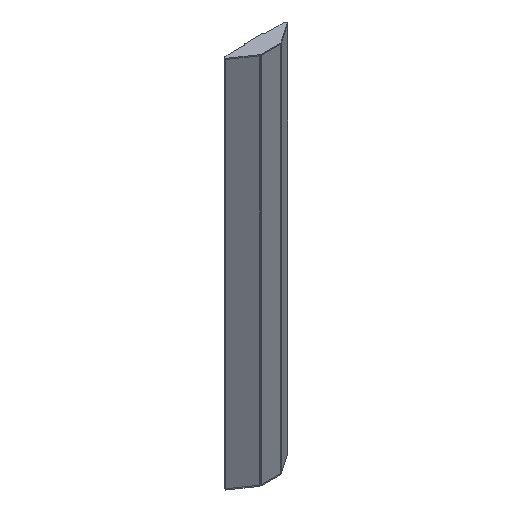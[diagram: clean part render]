
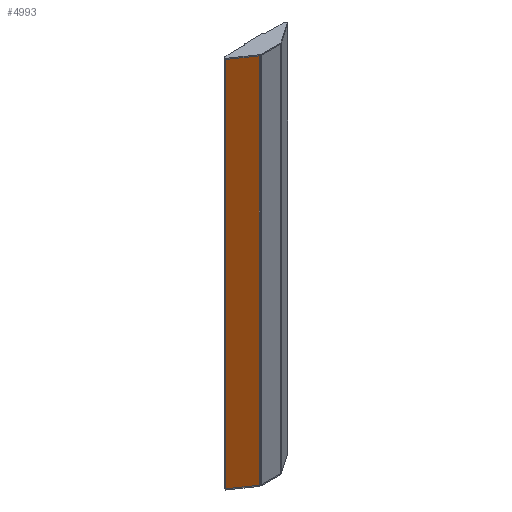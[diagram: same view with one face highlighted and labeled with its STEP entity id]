
A CAD part, isometric view. The second image highlights one B-rep face of the part: STEP entity #4993.
In plain terms, the highlighted planar face has unit normal (-0.563, -0.827, 0).
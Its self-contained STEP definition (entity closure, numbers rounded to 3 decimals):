
#5 = VECTOR ( 'NONE', #1711, 1000. ) ;
#10 = EDGE_CURVE ( 'NONE', #1614, #5538, #4094, .T. ) ;
#124 = VECTOR ( 'NONE', #1700, 1000. ) ;
#283 = DIRECTION ( 'NONE',  ( -0.827, 0.563, 0. ) ) ;
#312 = EDGE_LOOP ( 'NONE', ( #1421, #3820, #5164, #804 ) ) ;
#501 = DIRECTION ( 'NONE',  ( 0., 0., -1. ) ) ;
#654 = FACE_OUTER_BOUND ( 'NONE', #312, .T. ) ;
#804 = ORIENTED_EDGE ( 'NONE', *, *, #1153, .T. ) ;
#1153 = EDGE_CURVE ( 'NONE', #2557, #1614, #5301, .T. ) ;
#1299 = LINE ( 'NONE', #5607, #5 ) ;
#1399 = LINE ( 'NONE', #3031, #124 ) ;
#1421 = ORIENTED_EDGE ( 'NONE', *, *, #10, .T. ) ;
#1614 = VERTEX_POINT ( 'NONE', #5501 ) ;
#1700 = DIRECTION ( 'NONE',  ( 0., 0., -1. ) ) ;
#1711 = DIRECTION ( 'NONE',  ( 0.827, -0.563, 0. ) ) ;
#2557 = VERTEX_POINT ( 'NONE', #6114 ) ;
#2682 = PLANE ( 'NONE',  #5408 ) ;
#2686 = VERTEX_POINT ( 'NONE', #5440 ) ;
#2826 = VECTOR ( 'NONE', #3532, 1000. ) ;
#3031 = CARTESIAN_POINT ( 'NONE',  ( -33.332, -24.38, 1124. ) ) ;
#3097 = EDGE_CURVE ( 'NONE', #2686, #5538, #1399, .T. ) ;
#3195 = DIRECTION ( 'NONE',  ( 0.563, 0.827, 0. ) ) ;
#3532 = DIRECTION ( 'NONE',  ( 0.827, -0.563, 0. ) ) ;
#3633 = CARTESIAN_POINT ( 'NONE',  ( -33.332, -24.38, 0. ) ) ;
#3727 = EDGE_CURVE ( 'NONE', #2557, #2686, #1299, .T. ) ;
#3820 = ORIENTED_EDGE ( 'NONE', *, *, #3097, .F. ) ;
#3975 = CARTESIAN_POINT ( 'NONE',  ( -21.891, -32.166, 0. ) ) ;
#4013 = VECTOR ( 'NONE', #501, 1000. ) ;
#4094 = LINE ( 'NONE', #3975, #2826 ) ;
#4125 = CARTESIAN_POINT ( 'NONE',  ( -93.24, 16.391, 1124. ) ) ;
#4993 = ADVANCED_FACE ( 'NONE', ( #654 ), #2682, .F. ) ;
#5164 = ORIENTED_EDGE ( 'NONE', *, *, #3727, .F. ) ;
#5301 = LINE ( 'NONE', #4125, #4013 ) ;
#5408 = AXIS2_PLACEMENT_3D ( 'NONE', #6076, #3195, #283 ) ;
#5440 = CARTESIAN_POINT ( 'NONE',  ( -33.332, -24.38, 1124. ) ) ;
#5501 = CARTESIAN_POINT ( 'NONE',  ( -93.24, 16.391, 0. ) ) ;
#5538 = VERTEX_POINT ( 'NONE', #3633 ) ;
#5607 = CARTESIAN_POINT ( 'NONE',  ( -21.891, -32.166, 1124. ) ) ;
#6076 = CARTESIAN_POINT ( 'NONE',  ( -21.891, -32.166, 1124. ) ) ;
#6114 = CARTESIAN_POINT ( 'NONE',  ( -93.24, 16.391, 1124. ) ) ;
